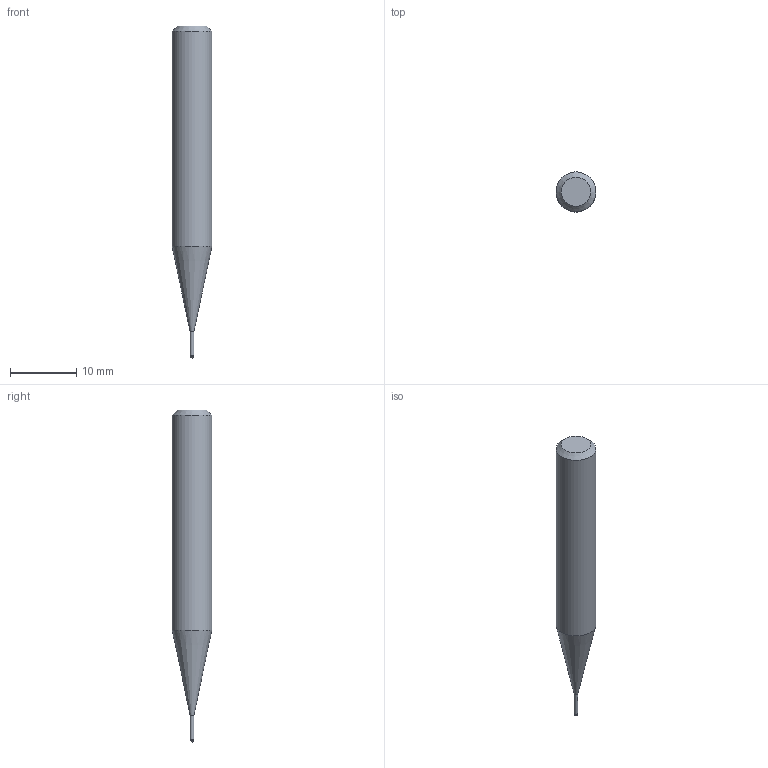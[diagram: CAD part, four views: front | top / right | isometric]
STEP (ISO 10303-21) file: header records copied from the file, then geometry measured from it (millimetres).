
FILE_DESCRIPTION((''),'2;1');
FILE_NAME('C:\Users\nsx150\AppData\Local\Temp\Mastercam 2021\ARV7HD45SN\TEMP.step','2023-06-13T16:34:09',(''),(''),'STEP Write','Mastercam 2021 ... CNC Software, Inc.','');
FILE_SCHEMA(('AUTOMOTIVE_DESIGN'));
Length unit declared in the file: millimetre
Products named in the file (1): None
Bounding box: 6 x 6 x 50 mm (x, y, z)
Volume: 1067.2 mm3; surface area: 786.9 mm2
Topology: 2 solids, 2 shells, 9 faces, 14 edges, 8 vertices
Faces by surface type: plane 3, cylinder 3, cone 2, sphere 1
Full cylindrical faces by diameter (mm): 0.56 x1, 0.6 x1, 6 x1
Entity records: 211 total; most frequent: DIRECTION 36, CARTESIAN_POINT 25, AXIS2_PLACEMENT_3D 18, ORIENTED_EDGE 14, EDGE_LOOP 14, STYLED_ITEM 12, ADVANCED_FACE 9, FACE_BOUND 8
